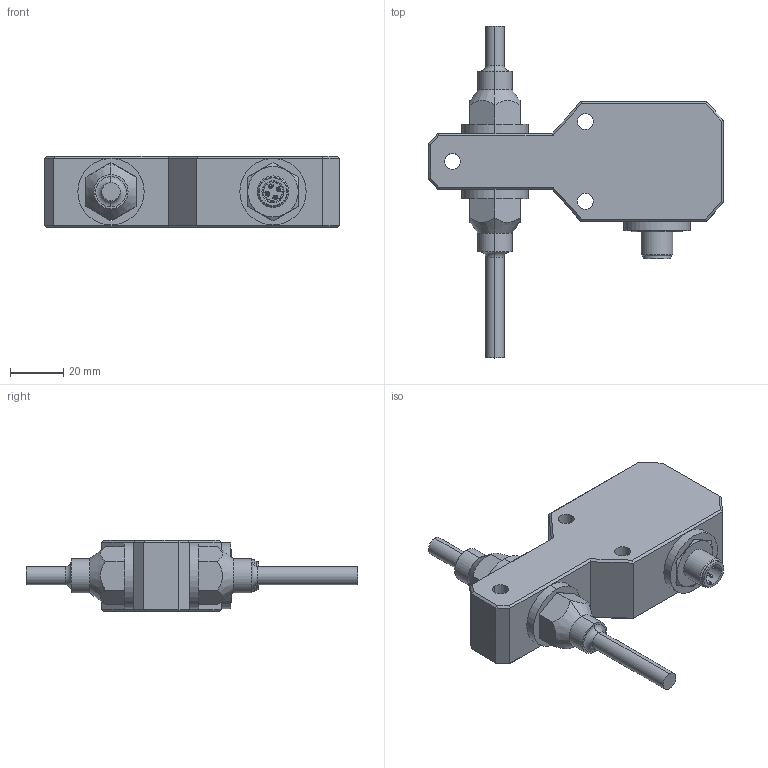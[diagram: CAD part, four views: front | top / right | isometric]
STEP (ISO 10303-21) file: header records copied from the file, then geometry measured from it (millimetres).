
FILE_DESCRIPTION (( 'STEP AP203' ), '1' );
FILE_NAME ('FCI-TCD04A4P-H1.step', '2012-07-16T15:28:11', ( 'Turck User' ), ( '' ), 'SwSTEP 2.0', 'SolidWorks 2012', '' );
FILE_SCHEMA (( 'CONFIG_CONTROL_DESIGN' ));
Length unit declared in the file: millimetre
Products named in the file (1): FCI-TCD04A4P-H1
Bounding box: 111 x 125 x 27 mm (x, y, z)
Volume: 108500.9 mm3; surface area: 24754 mm2
Topology: 1 solids, 1 shells, 209 faces, 521 edges, 328 vertices
Faces by surface type: plane 99, cylinder 67, cone 20, bspline 16, torus 7
Entity records: 6784 total; most frequent: CARTESIAN_POINT 1645, DIRECTION 1094, ORIENTED_EDGE 1042, EDGE_CURVE 521, AXIS2_PLACEMENT_3D 410, VERTEX_POINT 328, VECTOR 274, LINE 274
